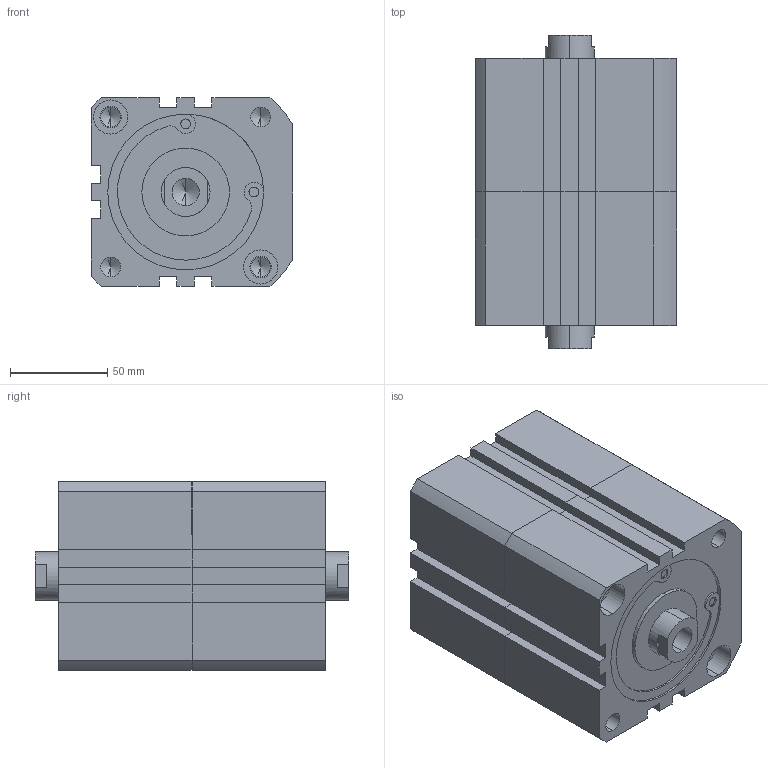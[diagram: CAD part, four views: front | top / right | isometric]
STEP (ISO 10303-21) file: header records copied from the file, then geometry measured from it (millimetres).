
FILE_DESCRIPTION (( 'STEP AP203' ), '1' );
FILE_NAME ('XGD7-80-10-10(L).STEP', '2016-08-05T01:45:27', ( '' ), ( '' ), 'SwSTEP 2.0', 'SolidWorks 2014', '' );
FILE_SCHEMA (( 'CONFIG_CONTROL_DESIGN' ));
Length unit declared in the file: millimetre
Products named in the file (2): XGD7(L)-80-10; XGD7-80-10-10(L)
Assembly tree (2 placements, depth 2):
  XGD7-80-10-10(L)
    XGD7(L)-80-10  x2
Bounding box: 103.5 x 161 x 97 mm (x, y, z)
Volume: 1233797.6 mm3; surface area: 125843.9 mm2
Topology: 2 solids, 2 shells, 222 faces, 558 edges, 348 vertices
Faces by surface type: cylinder 94, plane 92, cone 36
Entity records: 3478 total; most frequent: DIRECTION 604, CARTESIAN_POINT 555, ORIENTED_EDGE 530, EDGE_CURVE 265, AXIS2_PLACEMENT_3D 223, VERTEX_POINT 174, VECTOR 158, LINE 158
